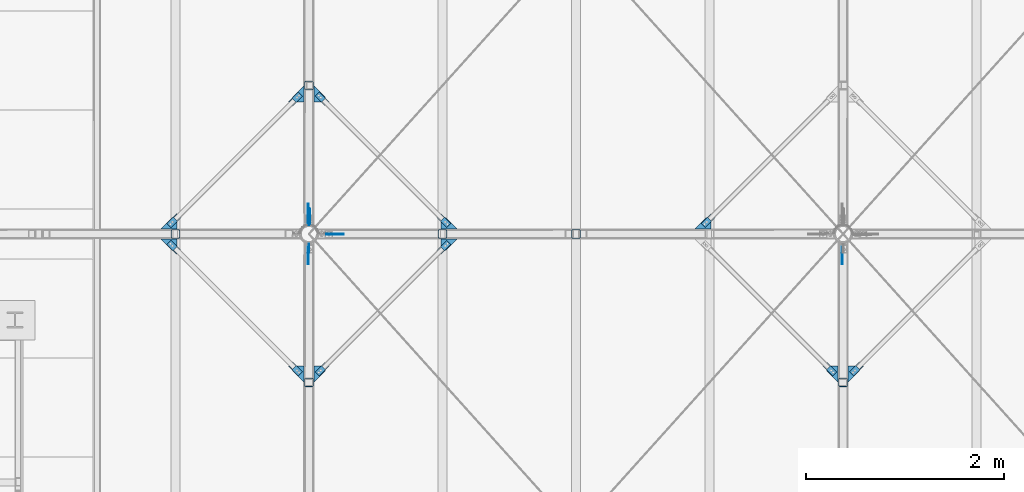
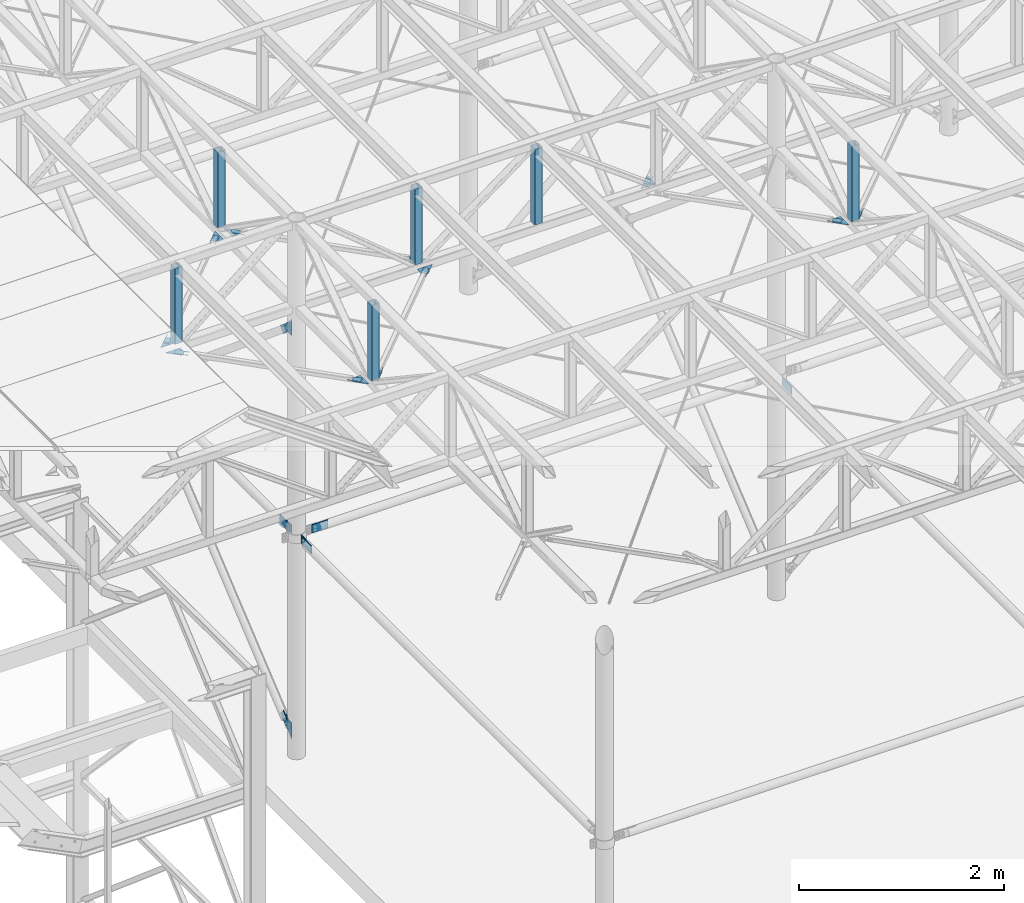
# One storey, part 75 of 132: 42 discrete accessories, 23 elements without a shape of their own.
"""IFC2X3 building model written with IfcOpenShell, lengths in millimetres."""

from ifc_helpers import new_model, si_unit, frame, origin_with_axes, origin_2d_with_axis, place, context, subcontext, project, spatial, polyline, rectangle, hollow_rectangle, outline, extrude, boolean, clip, halfspace, material, type_object, element, aggregate, save


model = new_model("IFC2X3")

# Units and contexts
model_context = context("Model", 3, precision=1e-05, world=origin_with_axes())
body_context = subcontext(model_context, "Body", "Model", "MODEL_VIEW")
ifc_project = project(units=[si_unit("LENGTHUNIT", "METRE", prefix="MILLI"), si_unit("AREAUNIT", "SQUARE_METRE"), si_unit("VOLUMEUNIT", "CUBIC_METRE"), si_unit("MASSUNIT", "GRAM", prefix="KILO"), si_unit("TIMEUNIT", "SECOND"), si_unit("PLANEANGLEUNIT", "RADIAN"), si_unit("SOLIDANGLEUNIT", "STERADIAN"), si_unit("THERMODYNAMICTEMPERATUREUNIT", "DEGREE_CELSIUS"), si_unit("LUMINOUSINTENSITYUNIT", "LUMEN")], contexts=[model_context])

# Site, building, storey
site_placement = place(None, origin_with_axes())
site = spatial("IfcSite", under=ifc_project, at=site_placement, Name="Budowa", CompositionType="ELEMENT")
building_placement = place(site_placement, origin_with_axes())
building = spatial("IfcBuilding", under=site, at=building_placement, Name="Undefined", CompositionType="ELEMENT")
storey_placement = place(building_placement, origin_with_axes())
storey = spatial("IfcBuildingStorey", under=building, at=storey_placement, Name="Undefined", CompositionType="ELEMENT", Elevation=0.0)

# Assembly, discrete accessory
assembly_1_placement = place(storey_placement, origin_with_axes())
assembly_1 = element("IfcElementAssembly", 1, at=assembly_1_placement, inside=storey, Name="Steel Assembly", AssemblyPlace="NOTDEFINED", PredefinedType="RIGID_FRAME")
ifc_material = material(Name="STEEL/S235")
discrete_accessory_type_1 = type_object("IfcDiscreteAccessoryType", Name="BLACHA")
discrete_accessory_1_placement = place(assembly_1_placement, frame((4016.99999980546, 12120.951207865, 7723.25167813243), z_axis=(0.0, 0.639165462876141, -0.769069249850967), x_axis=(0.0, 0.769069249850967, 0.639165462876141)))
discrete_accessory_1 = element("IfcDiscreteAccessory", 2, at=discrete_accessory_1_placement, type_object=discrete_accessory_type_1, material=ifc_material, Name="BLACHA", ObjectType="BL8*86", context=body_context, shape_type="CSG", body=[
    boolean("DIFFERENCE", boolean("DIFFERENCE", extrude(rectangle(XDim=8.0, YDim=86.0, at=origin_2d_with_axis()), frame((190.000000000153, -3.63797880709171e-12, 3.30513394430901e-13), z_axis=(-1.0, 0.0, 0.0), x_axis=(0.0, -1.0, 0.0)), (0.0, 0.0, 1.0), 190.0), extrude(outline(polyline([(0.0, 0.0), (20.0000000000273, -3.63797880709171e-12), (5.45696821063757e-12, 20.0000000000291), (0.0, 0.0)])), frame((0.0, 6.50000013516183, -43.0), z_axis=(0.0, -1.0, 0.0), x_axis=(1.0, 0.0, 0.0)), (0.0, 0.0, 1.0), 13.0)), extrude(outline(polyline([(0.0, 0.0), (20.0000000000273, -3.63797880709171e-12), (5.45696821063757e-12, 20.0000000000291), (0.0, 0.0)])), frame((3.63797880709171e-12, -6.49999986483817, 43.0), z_axis=(0.0, 1.0, 0.0), x_axis=(1.0, 0.0, 0.0)), (0.0, 0.0, 1.0), 13.0)),
])
aggregate(assembly_1, [discrete_accessory_1])

assembly_2_placement = place(storey_placement, origin_with_axes())
assembly_2 = element("IfcElementAssembly", 3, at=assembly_2_placement, inside=storey, Name="Steel Assembly", AssemblyPlace="NOTDEFINED", PredefinedType="RIGID_FRAME")
discrete_accessory_2_placement = place(assembly_2_placement, frame((4025.00000233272, 12088.9000000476, 7811.00054931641), z_axis=(1.0, 0.0, 0.0), x_axis=(0.0, 0.0, -1.0)))
discrete_accessory_2 = element("IfcDiscreteAccessory", 4, at=discrete_accessory_2_placement, type_object=discrete_accessory_type_1, material=ifc_material, Name="BLACHA", ObjectType="BL8*126", context=body_context, shape_type="SweptSolid", body=[
    extrude(outline(polyline([(0.0, 0.0), (188.000686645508, 0.0), (188.000686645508, 10.0), (60.999870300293, 126.000648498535), (3.18323145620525e-09, 76.0014114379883), (0.0, 0.0)])), frame((0.0, 0.0, -4.0), z_axis=(0.0, 0.0, 1.0), x_axis=(1.0, 0.0, 0.0)), (0.0, 0.0, 1.0), 8.0),
])

assembly_3_placement = place(storey_placement, origin_with_axes())
assembly_3 = element("IfcElementAssembly", 5, at=assembly_3_placement, inside=storey, Name="Steel Assembly", AssemblyPlace="NOTDEFINED", PredefinedType="RIGID_FRAME")
discrete_accessory_3_placement = place(assembly_3_placement, frame((4016.99999980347, 12120.9512117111, 12508.7489949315), z_axis=(0.0, -0.63916553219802, -0.769069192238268), x_axis=(0.0, 0.769069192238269, -0.639165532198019)))
discrete_accessory_3 = element("IfcDiscreteAccessory", 6, at=discrete_accessory_3_placement, type_object=discrete_accessory_type_1, material=ifc_material, Name="BLACHA", ObjectType="BL8*86", context=body_context, shape_type="CSG", body=[
    boolean("DIFFERENCE", boolean("DIFFERENCE", extrude(rectangle(XDim=8.0, YDim=86.0, at=origin_2d_with_axis()), frame((190.000000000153, -3.63797880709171e-12, 3.30513394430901e-13), z_axis=(-1.0, 0.0, 0.0), x_axis=(0.0, -1.0, 0.0)), (0.0, 0.0, 1.0), 190.0), extrude(outline(polyline([(0.0, 0.0), (20.0000000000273, -3.63797880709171e-12), (5.45696821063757e-12, 20.0000000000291), (0.0, 0.0)])), frame((0.0, 6.50000013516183, -43.0), z_axis=(0.0, -1.0, 0.0), x_axis=(1.0, 0.0, 0.0)), (0.0, 0.0, 1.0), 13.0)), extrude(outline(polyline([(0.0, 0.0), (20.0000000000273, -3.63797880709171e-12), (5.45696821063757e-12, 20.0000000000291), (0.0, 0.0)])), frame((3.63797880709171e-12, -6.49999986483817, 43.0), z_axis=(0.0, 1.0, 0.0), x_axis=(1.0, 0.0, 0.0)), (0.0, 0.0, 1.0), 13.0)),
])
aggregate(assembly_3, [discrete_accessory_3])

# Discrete accessory
discrete_accessory_4_placement = place(assembly_2_placement, frame((4025.0000023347, 12088.9000000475, 12608.9999313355), z_axis=(1.0, 0.0, 0.0), x_axis=(0.0, 0.0, -1.0)))
discrete_accessory_4 = element("IfcDiscreteAccessory", 7, at=discrete_accessory_4_placement, type_object=discrete_accessory_type_1, material=ifc_material, Name="BLACHA", ObjectType="BL8*126", context=body_context, shape_type="SweptSolid", body=[
    extrude(outline(polyline([(0.0, 0.0), (187.999725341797, 0.0), (187.999725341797, 76.0014114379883), (126.999855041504, 126.000648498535), (0.0, 10.0), (0.0, 0.0)])), frame((0.0, 0.0, -4.0), z_axis=(0.0, 0.0, 1.0), x_axis=(1.0, 0.0, 0.0)), (0.0, 0.0, 1.0), 8.0),
])

# Assembly, discrete accessory
assembly_4_placement = place(storey_placement, origin_with_axes())
assembly_4 = element("IfcElementAssembly", 8, at=assembly_4_placement, inside=storey, Name="Steel Assembly", AssemblyPlace="NOTDEFINED", PredefinedType="RIGID_FRAME")
discrete_accessory_5_placement = place(assembly_4_placement, frame((4017.0000027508, 12127.9079054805, 10116.0003779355), z_axis=(1.0, 0.0, 0.0), x_axis=(0.0, 1.0, 0.0)))
discrete_accessory_5 = element("IfcDiscreteAccessory", 9, at=discrete_accessory_5_placement, type_object=discrete_accessory_type_1, material=ifc_material, Name="BLACHA", ObjectType="BL8*100", context=body_context, shape_type="SweptSolid", body=[
    extrude(outline(polyline([(0.0, -50.0), (0.0, 50.0), (180.0, 50.0), (180.0, -50.0), (0.0, -50.0)])), frame((0.0, 0.0, -4.0), z_axis=(0.0, 0.0, 1.0), x_axis=(1.0, 0.0, 0.0)), (0.0, 0.0, 1.0), 8.0),
])
aggregate(assembly_4, [discrete_accessory_5])

assembly_5_placement = place(storey_placement, origin_with_axes())
assembly_5 = element("IfcElementAssembly", 10, at=assembly_5_placement, inside=storey, Name="Steel Assembly", AssemblyPlace="NOTDEFINED", PredefinedType="RIGID_FRAME")
discrete_accessory_6_placement = place(assembly_5_placement, frame((4025.0000027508, 12097.9956435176, 10066.0003796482), z_axis=(-1.0, 0.0, 0.0), x_axis=(0.0, 0.0, 1.0)))
discrete_accessory_6 = element("IfcDiscreteAccessory", 11, at=discrete_accessory_6_placement, type_object=discrete_accessory_type_1, material=ifc_material, Name="BLACHA", ObjectType="BL8*90", context=body_context, shape_type="SweptSolid", body=[
    extrude(outline(polyline([(0.0, 0.0), (100.0, 0.0), (100.0, 89.9122619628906), (0.0, 89.9122619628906), (0.0, 0.0)])), frame((0.0, 0.0, -4.0), z_axis=(0.0, 0.0, 1.0), x_axis=(1.0, 0.0, 0.0)), (0.0, 0.0, 1.0), 8.0),
])
aggregate(assembly_5, [discrete_accessory_6])

assembly_6_placement = place(storey_placement, origin_with_axes())
assembly_6 = element("IfcElementAssembly", 12, at=assembly_6_placement, inside=storey, Name="Steel Assembly", AssemblyPlace="NOTDEFINED", PredefinedType="RIGID_FRAME")
discrete_accessory_7_placement = place(assembly_6_placement, frame((4017.00000247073, 11872.0920947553, 10116.0003779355), z_axis=(1.0, 0.0, 0.0), x_axis=(0.0, -1.0, 0.0)))
discrete_accessory_7 = element("IfcDiscreteAccessory", 13, at=discrete_accessory_7_placement, type_object=discrete_accessory_type_1, material=ifc_material, Name="BLACHA", ObjectType="BL8*100", context=body_context, shape_type="SweptSolid", body=[
    extrude(outline(polyline([(180.0, 50.0), (180.0, -50.0), (0.0, -50.0), (0.0, 50.0), (180.0, 50.0)])), frame((0.0, 0.0, -4.0), z_axis=(0.0, 0.0, 1.0), x_axis=(1.0, 0.0, 0.0)), (0.0, 0.0, 1.0), 8.0),
])
aggregate(assembly_6, [discrete_accessory_7])

assembly_7_placement = place(storey_placement, origin_with_axes())
assembly_7 = element("IfcElementAssembly", 14, at=assembly_7_placement, inside=storey, Name="Steel Assembly", AssemblyPlace="NOTDEFINED", PredefinedType="RIGID_FRAME")
discrete_accessory_8_placement = place(assembly_7_placement, frame((4025.00000247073, 11902.0043567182, 10166.0003799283), z_axis=(-1.0, 0.0, 0.0), x_axis=(0.0, 0.0, -1.0)))
discrete_accessory_8 = element("IfcDiscreteAccessory", 15, at=discrete_accessory_8_placement, type_object=discrete_accessory_type_1, material=ifc_material, Name="BLACHA", ObjectType="BL8*90", context=body_context, shape_type="SweptSolid", body=[
    extrude(outline(polyline([(0.0, 0.0), (100.0, 0.0), (100.0, 89.9122619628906), (0.0, 89.9122619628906), (0.0, 0.0)])), frame((0.0, 0.0, -4.0), z_axis=(0.0, 0.0, 1.0), x_axis=(1.0, 0.0, 0.0)), (0.0, 0.0, 1.0), 8.0),
])
aggregate(assembly_7, [discrete_accessory_8])

assembly_8_placement = place(storey_placement, origin_with_axes())
assembly_8 = element("IfcElementAssembly", 16, at=assembly_8_placement, inside=storey, Name="Steel Assembly", AssemblyPlace="NOTDEFINED", PredefinedType="RIGID_FRAME")
discrete_accessory_9_placement = place(assembly_8_placement, frame((9417.00000249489, 11872.0920947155, 10116.0003779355), z_axis=(1.0, 0.0, 0.0), x_axis=(0.0, -1.0, 0.0)))
discrete_accessory_9 = element("IfcDiscreteAccessory", 17, at=discrete_accessory_9_placement, type_object=discrete_accessory_type_1, material=ifc_material, Name="BLACHA", ObjectType="BL8*100", context=body_context, shape_type="SweptSolid", body=[
    extrude(outline(polyline([(180.0, 50.0), (180.0, -50.0), (0.0, -50.0), (0.0, 50.0), (180.0, 50.0)])), frame((0.0, 0.0, -4.0), z_axis=(0.0, 0.0, 1.0), x_axis=(1.0, 0.0, 0.0)), (0.0, 0.0, 1.0), 8.0),
])
aggregate(assembly_8, [discrete_accessory_9])

assembly_9_placement = place(storey_placement, origin_with_axes())
assembly_9 = element("IfcElementAssembly", 18, at=assembly_9_placement, inside=storey, Name="Steel Assembly", AssemblyPlace="NOTDEFINED", PredefinedType="RIGID_FRAME")
discrete_accessory_10_placement = place(assembly_9_placement, frame((4198.13669406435, 11997.9999994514, 10116.0003779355), z_axis=(0.0, -1.0, 0.0), x_axis=(1.0, 0.0, 0.0)))
discrete_accessory_10 = element("IfcDiscreteAccessory", 19, at=discrete_accessory_10_placement, type_object=discrete_accessory_type_1, material=ifc_material, Name="BLACHA", ObjectType="BL8*100", context=body_context, shape_type="SweptSolid", body=[
    extrude(outline(polyline([(0.0, -50.0), (0.0, 50.0), (180.0, 50.0), (180.0, -50.0), (0.0, -50.0)])), frame((0.0, 0.0, -4.0), z_axis=(0.0, 0.0, 1.0), x_axis=(1.0, 0.0, 0.0)), (0.0, 0.0, 1.0), 8.0),
])
aggregate(assembly_9, [discrete_accessory_10])

assembly_10_placement = place(storey_placement, origin_with_axes())
assembly_10 = element("IfcElementAssembly", 20, at=assembly_10_placement, inside=storey, Name="Steel Assembly", AssemblyPlace="NOTDEFINED", PredefinedType="RIGID_FRAME")
discrete_accessory_11_placement = place(assembly_10_placement, frame((4032.99999964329, 12120.9512077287, 7723.25167860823), z_axis=(0.0, 0.639165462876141, -0.769069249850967), x_axis=(0.0, 0.769069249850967, 0.639165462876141)))
discrete_accessory_11 = element("IfcDiscreteAccessory", 21, at=discrete_accessory_11_placement, type_object=discrete_accessory_type_1, material=ifc_material, Name="BLACHA", ObjectType="BL8*69", context=body_context, shape_type="SweptSolid", body=[
    extrude(rectangle(XDim=8.0, YDim=69.0, at=origin_2d_with_axis()), frame((149.999999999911, 0.0, 0.0), z_axis=(-1.0, 0.0, 0.0), x_axis=(0.0, -1.0, 0.0)), (0.0, 0.0, 1.0), 150.0),
])
aggregate(assembly_10, [discrete_accessory_11])

# Discrete accessory
discrete_accessory_12_placement = place(assembly_2_placement, frame((4024.99999964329, 12088.9000000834, 7811.1548043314), z_axis=(1.0, 0.0, 0.0), x_axis=(0.0, 0.0, -1.0)))
discrete_accessory_12 = element("IfcDiscreteAccessory", 22, at=discrete_accessory_12_placement, type_object=discrete_accessory_type_1, material=ifc_material, Name="BLACHA", ObjectType="BL8*127", context=body_context, shape_type="SweptSolid", body=[
    extrude(outline(polyline([(0.0, 0.0), (165.901336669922, 0.0), (165.901336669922, 10.0), (60.7564697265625, 126.514472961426), (0.0, 76.0204086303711), (0.0, 0.0)])), frame((0.0, 0.0, -4.0), z_axis=(0.0, 0.0, 1.0), x_axis=(1.0, 0.0, 0.0)), (0.0, 0.0, 1.0), 8.0),
])

# Assembly, discrete accessory
assembly_11_placement = place(storey_placement, origin_with_axes())
assembly_11 = element("IfcElementAssembly", 23, at=assembly_11_placement, inside=storey, Name="Steel Assembly", AssemblyPlace="NOTDEFINED", PredefinedType="RIGID_FRAME")
discrete_accessory_13_placement = place(assembly_11_placement, frame((4032.99999991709, 12120.9512117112, 12508.7489949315), z_axis=(0.0, -0.63916553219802, -0.769069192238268), x_axis=(0.0, 0.769069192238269, -0.639165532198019)))
discrete_accessory_13 = element("IfcDiscreteAccessory", 24, at=discrete_accessory_13_placement, type_object=discrete_accessory_type_1, material=ifc_material, Name="BLACHA", ObjectType="BL8*69", context=body_context, shape_type="SweptSolid", body=[
    extrude(rectangle(XDim=8.0, YDim=69.0, at=origin_2d_with_axis()), frame((149.999999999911, 0.0, 0.0), z_axis=(-1.0, 0.0, 0.0), x_axis=(0.0, -1.0, 0.0)), (0.0, 0.0, 1.0), 150.0),
])
aggregate(assembly_11, [discrete_accessory_13])

# Discrete accessory
discrete_accessory_14_placement = place(assembly_2_placement, frame((4024.99999991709, 12088.9000000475, 12586.7472155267), z_axis=(1.0, 0.0, 0.0), x_axis=(0.0, 0.0, -1.0)))
discrete_accessory_14 = element("IfcDiscreteAccessory", 25, at=discrete_accessory_14_placement, type_object=discrete_accessory_type_1, material=ifc_material, Name="BLACHA", ObjectType="BL8*127", context=body_context, shape_type="SweptSolid", body=[
    extrude(outline(polyline([(0.0, 0.0), (165.901336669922, 0.0), (165.901351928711, 76.0204010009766), (105.144889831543, 126.514472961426), (0.0, 10.0), (0.0, 0.0)])), frame((0.0, 0.0, -4.0), z_axis=(0.0, 0.0, 1.0), x_axis=(1.0, 0.0, 0.0)), (0.0, 0.0, 1.0), 8.0),
])

aggregate(assembly_2, [discrete_accessory_2, discrete_accessory_4, discrete_accessory_12, discrete_accessory_14])

# Assembly, discrete accessory
assembly_12_placement = place(storey_placement, origin_with_axes())
assembly_12 = element("IfcElementAssembly", 26, at=assembly_12_placement, inside=storey, Name="Steel Assembly", AssemblyPlace="NOTDEFINED", PredefinedType="RIGID_FRAME")
discrete_accessory_15_placement = place(assembly_12_placement, frame((5319.3786418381, 12162.9949513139, 12830.0), z_axis=(0.0, 0.0, 1.0), x_axis=(0.707106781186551, -0.707106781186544, 0.0)))
discrete_accessory_15 = element("IfcDiscreteAccessory", 27, at=discrete_accessory_15_placement, type_object=discrete_accessory_type_1, material=ifc_material, Name="BLACHA", ObjectType="BL6*60", context=body_context, shape_type="SweptSolid", body=[
    extrude(outline(polyline([(0.0, 0.0), (139.99999999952, -6.2755134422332e-10), (139.99999999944, 59.9999999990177), (0.0, 60.0), (-8.00355337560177e-11, 54.9999999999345), (49.9999999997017, 54.9999999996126), (49.9999999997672, 4.99999999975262), (-8.73114913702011e-11, 5.00000000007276), (0.0, 0.0)])), frame((0.0, 0.0, -3.0), z_axis=(0.0, 0.0, 1.0), x_axis=(1.0, 0.0, 0.0)), (0.0, 0.0, 1.0), 6.0),
])

assembly_13_placement = place(storey_placement, origin_with_axes())
assembly_13 = element("IfcElementAssembly", 28, at=assembly_13_placement, inside=storey, Name="Steel Assembly", AssemblyPlace="NOTDEFINED", PredefinedType="RIGID_FRAME")
discrete_accessory_16_placement = place(assembly_13_placement, frame((5358.2695167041, 12050.000000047, 12824.0), z_axis=(0.0, 0.0, 1.0), x_axis=(1.0, 0.0, 0.0)))
discrete_accessory_16 = element("IfcDiscreteAccessory", 29, at=discrete_accessory_16_placement, type_object=discrete_accessory_type_1, material=ifc_material, Name="BLACHA", ObjectType="BL6*117", context=body_context, shape_type="SweptSolid", body=[
    extrude(outline(polyline([(0.0, 0.0), (166.027954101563, 0.0), (49.4974746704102, 116.530487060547), (0.0, 67.0330123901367), (0.0, 0.0)])), frame((0.0, 0.0, -3.0), z_axis=(0.0, 0.0, 1.0), x_axis=(1.0, 0.0, 0.0)), (0.0, 0.0, 1.0), 6.0),
])

# Discrete accessory
discrete_accessory_17_placement = place(assembly_12_placement, frame((4230.42135803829, 13336.8050488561, 12830.0), z_axis=(0.0, 0.0, 1.0), x_axis=(-0.707106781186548, 0.707106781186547, 0.0)))
discrete_accessory_17 = element("IfcDiscreteAccessory", 30, at=discrete_accessory_17_placement, type_object=discrete_accessory_type_1, material=ifc_material, Name="BLACHA", ObjectType="BL6*60", context=body_context, shape_type="SweptSolid", body=[
    extrude(outline(polyline([(0.0, 0.0), (139.99999999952, -6.2755134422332e-10), (139.99999999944, 59.9999999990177), (0.0, 60.0), (-8.00355337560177e-11, 54.9999999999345), (49.9999999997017, 54.9999999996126), (49.9999999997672, 4.99999999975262), (-8.73114913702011e-11, 5.00000000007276), (0.0, 0.0)])), frame((0.0, 0.0, -3.0), z_axis=(0.0, 0.0, 1.0), x_axis=(1.0, 0.0, 0.0)), (0.0, 0.0, 1.0), 6.0),
])

aggregate(assembly_12, [discrete_accessory_15, discrete_accessory_17])

# Assembly, discrete accessory
assembly_14_placement = place(storey_placement, origin_with_axes())
assembly_14 = element("IfcElementAssembly", 31, at=assembly_14_placement, inside=storey, Name="Steel Assembly", AssemblyPlace="NOTDEFINED", PredefinedType="RIGID_FRAME")
discrete_accessory_18_placement = place(assembly_14_placement, frame((4074.99999991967, 13499.2974747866, 12824.0), z_axis=(0.0, 0.0, 1.0), x_axis=(0.0, -1.0, 0.0)))
discrete_accessory_18 = element("IfcDiscreteAccessory", 32, at=discrete_accessory_18_placement, type_object=discrete_accessory_type_1, material=ifc_material, Name="BLACHA", ObjectType="BL6*117", context=body_context, shape_type="SweptSolid", body=[
    extrude(outline(polyline([(0.0, 0.0), (166.027954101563, 0.0), (166.027954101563, 67.0330123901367), (116.530487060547, 116.530487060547), (0.0, 0.0)])), frame((0.0, 0.0, -3.0), z_axis=(0.0, 0.0, 1.0), x_axis=(1.0, 0.0, 0.0)), (0.0, 0.0, 1.0), 6.0),
])

assembly_15_placement = place(storey_placement, origin_with_axes())
assembly_15 = element("IfcElementAssembly", 33, at=assembly_15_placement, inside=storey, Name="Steel Assembly", AssemblyPlace="NOTDEFINED", PredefinedType="RIGID_FRAME")
discrete_accessory_19_placement = place(assembly_15_placement, frame((5362.00504867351, 11794.5786419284, 12830.0), z_axis=(0.0, 0.0, 1.0), x_axis=(0.707106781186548, 0.707106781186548, 0.0)))
discrete_accessory_19 = element("IfcDiscreteAccessory", 34, at=discrete_accessory_19_placement, type_object=discrete_accessory_type_1, material=ifc_material, Name="BLACHA", ObjectType="BL6*60", context=body_context, shape_type="SweptSolid", body=[
    extrude(outline(polyline([(0.0, 0.0), (139.99999999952, -6.2755134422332e-10), (139.99999999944, 59.9999999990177), (0.0, 60.0), (-8.00355337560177e-11, 54.9999999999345), (49.9999999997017, 54.9999999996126), (49.9999999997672, 4.99999999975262), (-8.73114913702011e-11, 5.00000000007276), (0.0, 0.0)])), frame((0.0, 0.0, -3.0), z_axis=(0.0, 0.0, 1.0), x_axis=(1.0, 0.0, 0.0)), (0.0, 0.0, 1.0), 6.0),
])

# Discrete accessory
discrete_accessory_20_placement = place(assembly_13_placement, frame((5524.49747460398, 11950.000000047, 12824.0), z_axis=(0.0, 0.0, 1.0), x_axis=(-1.0, 0.0, 0.0)))
discrete_accessory_20 = element("IfcDiscreteAccessory", 35, at=discrete_accessory_20_placement, type_object=discrete_accessory_type_1, material=ifc_material, Name="BLACHA", ObjectType="BL6*117", context=body_context, shape_type="SweptSolid", body=[
    extrude(outline(polyline([(0.0, 0.0), (166.027954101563, 0.0), (166.027954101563, 67.0330123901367), (116.530487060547, 116.530487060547), (0.0, 0.0)])), frame((0.0, 0.0, -3.0), z_axis=(0.0, 0.0, 1.0), x_axis=(1.0, 0.0, 0.0)), (0.0, 0.0, 1.0), 6.0),
])

discrete_accessory_21_placement = place(assembly_15_placement, frame((4187.9949511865, 10705.4213581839, 12830.0), z_axis=(0.0, 0.0, 1.0), x_axis=(-0.70710678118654, -0.707106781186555, 0.0)))
discrete_accessory_21 = element("IfcDiscreteAccessory", 36, at=discrete_accessory_21_placement, type_object=discrete_accessory_type_1, material=ifc_material, Name="BLACHA", ObjectType="BL6*60", context=body_context, shape_type="SweptSolid", body=[
    extrude(outline(polyline([(0.0, 0.0), (139.99999999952, -6.2755134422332e-10), (139.99999999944, 59.9999999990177), (0.0, 60.0), (-8.00355337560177e-11, 54.9999999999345), (49.9999999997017, 54.9999999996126), (49.9999999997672, 4.99999999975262), (-8.73114913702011e-11, 5.00000000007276), (0.0, 0.0)])), frame((0.0, 0.0, -3.0), z_axis=(0.0, 0.0, 1.0), x_axis=(1.0, 0.0, 0.0)), (0.0, 0.0, 1.0), 6.0),
])

aggregate(assembly_15, [discrete_accessory_19, discrete_accessory_21])

# Assembly, discrete accessory
assembly_16_placement = place(storey_placement, origin_with_axes())
assembly_16 = element("IfcElementAssembly", 37, at=assembly_16_placement, inside=storey, Name="Steel Assembly", AssemblyPlace="NOTDEFINED", PredefinedType="RIGID_FRAME")
discrete_accessory_22_placement = place(assembly_16_placement, frame((4074.99999991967, 10666.5304833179, 12824.0), z_axis=(0.0, 0.0, 1.0), x_axis=(0.0, -1.0, 0.0)))
discrete_accessory_22 = element("IfcDiscreteAccessory", 38, at=discrete_accessory_22_placement, type_object=discrete_accessory_type_1, material=ifc_material, Name="BLACHA", ObjectType="BL6*117", context=body_context, shape_type="SweptSolid", body=[
    extrude(outline(polyline([(0.0, 0.0), (166.027954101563, 0.0), (49.4974746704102, 116.530487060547), (0.0, 67.0330123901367), (0.0, 0.0)])), frame((0.0, 0.0, -3.0), z_axis=(0.0, 0.0, 1.0), x_axis=(1.0, 0.0, 0.0)), (0.0, 0.0, 1.0), 6.0),
])

assembly_17_placement = place(storey_placement, origin_with_axes())
assembly_17 = element("IfcElementAssembly", 39, at=assembly_17_placement, inside=storey, Name="Steel Assembly", AssemblyPlace="NOTDEFINED", PredefinedType="RIGID_FRAME")
discrete_accessory_23_placement = place(assembly_17_placement, frame((2688.19495111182, 12205.4213581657, 12830.0), z_axis=(0.0, 0.0, 1.0), x_axis=(-0.70710678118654, -0.707106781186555, 0.0)))
discrete_accessory_23 = element("IfcDiscreteAccessory", 40, at=discrete_accessory_23_placement, type_object=discrete_accessory_type_1, material=ifc_material, Name="BLACHA", ObjectType="BL6*60", context=body_context, shape_type="SweptSolid", body=[
    extrude(outline(polyline([(0.0, 0.0), (139.99999999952, -6.2755134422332e-10), (139.99999999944, 59.9999999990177), (0.0, 60.0), (-8.00355337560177e-11, 54.9999999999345), (49.9999999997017, 54.9999999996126), (49.9999999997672, 4.99999999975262), (-8.73114913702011e-11, 5.00000000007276), (0.0, 0.0)])), frame((0.0, 0.0, -3.0), z_axis=(0.0, 0.0, 1.0), x_axis=(1.0, 0.0, 0.0)), (0.0, 0.0, 1.0), 6.0),
])

assembly_18_placement = place(storey_placement, origin_with_axes())
assembly_18 = element("IfcElementAssembly", 41, at=assembly_18_placement, inside=storey, Name="Steel Assembly", AssemblyPlace="NOTDEFINED", PredefinedType="RIGID_FRAME")
discrete_accessory_24_placement = place(assembly_18_placement, frame((2525.70252518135, 12050.000000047, 12824.0), z_axis=(0.0, 0.0, 1.0), x_axis=(1.0, 0.0, 0.0)))
discrete_accessory_24 = element("IfcDiscreteAccessory", 42, at=discrete_accessory_24_placement, type_object=discrete_accessory_type_1, material=ifc_material, Name="BLACHA", ObjectType="BL6*117", context=body_context, shape_type="SweptSolid", body=[
    extrude(outline(polyline([(0.0, 0.0), (166.027954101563, 0.0), (166.027954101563, 67.0330123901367), (116.530487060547, 116.530487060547), (0.0, 0.0)])), frame((0.0, 0.0, -3.0), z_axis=(0.0, 0.0, 1.0), x_axis=(1.0, 0.0, 0.0)), (0.0, 0.0, 1.0), 6.0),
])

# Discrete accessory
discrete_accessory_25_placement = place(assembly_17_placement, frame((3862.00504865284, 13294.3786419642, 12830.0), z_axis=(0.0, 0.0, 1.0), x_axis=(0.707106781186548, 0.707106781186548, 0.0)))
discrete_accessory_25 = element("IfcDiscreteAccessory", 43, at=discrete_accessory_25_placement, type_object=discrete_accessory_type_1, material=ifc_material, Name="BLACHA", ObjectType="BL6*60", context=body_context, shape_type="SweptSolid", body=[
    extrude(outline(polyline([(0.0, 0.0), (139.99999999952, -6.2755134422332e-10), (139.99999999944, 59.9999999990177), (0.0, 60.0), (-8.00355337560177e-11, 54.9999999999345), (49.9999999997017, 54.9999999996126), (49.9999999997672, 4.99999999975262), (-8.73114913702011e-11, 5.00000000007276), (0.0, 0.0)])), frame((0.0, 0.0, -3.0), z_axis=(0.0, 0.0, 1.0), x_axis=(1.0, 0.0, 0.0)), (0.0, 0.0, 1.0), 6.0),
])

aggregate(assembly_17, [discrete_accessory_23, discrete_accessory_25])

discrete_accessory_26_placement = place(assembly_14_placement, frame((3974.99999991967, 13333.2695168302, 12824.0), z_axis=(0.0, 0.0, 1.0), x_axis=(0.0, 1.0, 0.0)))
discrete_accessory_26 = element("IfcDiscreteAccessory", 44, at=discrete_accessory_26_placement, type_object=discrete_accessory_type_1, material=ifc_material, Name="BLACHA", ObjectType="BL6*117", context=body_context, shape_type="SweptSolid", body=[
    extrude(outline(polyline([(0.0, 0.0), (166.027954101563, 0.0), (49.4974746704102, 116.530487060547), (0.0, 67.0330123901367), (0.0, 0.0)])), frame((0.0, 0.0, -3.0), z_axis=(0.0, 0.0, 1.0), x_axis=(1.0, 0.0, 0.0)), (0.0, 0.0, 1.0), 6.0),
])

# Assembly, discrete accessory
assembly_19_placement = place(storey_placement, origin_with_axes())
assembly_19 = element("IfcElementAssembly", 45, at=assembly_19_placement, inside=storey, Name="Steel Assembly", AssemblyPlace="NOTDEFINED", PredefinedType="RIGID_FRAME")
discrete_accessory_27_placement = place(assembly_19_placement, frame((2730.42135805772, 11837.0050487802, 12830.0), z_axis=(0.0, 0.0, 1.0), x_axis=(-0.707106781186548, 0.707106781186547, 0.0)))
discrete_accessory_27 = element("IfcDiscreteAccessory", 46, at=discrete_accessory_27_placement, type_object=discrete_accessory_type_1, material=ifc_material, Name="BLACHA", ObjectType="BL6*60", context=body_context, shape_type="SweptSolid", body=[
    extrude(outline(polyline([(0.0, 0.0), (139.99999999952, -6.2755134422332e-10), (139.99999999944, 59.9999999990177), (0.0, 60.0), (-8.00355337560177e-11, 54.9999999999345), (49.9999999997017, 54.9999999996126), (49.9999999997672, 4.99999999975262), (-8.73114913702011e-11, 5.00000000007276), (0.0, 0.0)])), frame((0.0, 0.0, -3.0), z_axis=(0.0, 0.0, 1.0), x_axis=(1.0, 0.0, 0.0)), (0.0, 0.0, 1.0), 6.0),
])

# Discrete accessory
discrete_accessory_28_placement = place(assembly_18_placement, frame((2691.53048319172, 11950.000000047, 12824.0), z_axis=(0.0, 0.0, 1.0), x_axis=(-1.0, 0.0, 0.0)))
discrete_accessory_28 = element("IfcDiscreteAccessory", 47, at=discrete_accessory_28_placement, type_object=discrete_accessory_type_1, material=ifc_material, Name="BLACHA", ObjectType="BL6*117", context=body_context, shape_type="SweptSolid", body=[
    extrude(outline(polyline([(0.0, 0.0), (166.027954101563, 0.0), (49.4974746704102, 116.530487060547), (0.0, 67.0330123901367), (0.0, 0.0)])), frame((0.0, 0.0, -3.0), z_axis=(0.0, 0.0, 1.0), x_axis=(1.0, 0.0, 0.0)), (0.0, 0.0, 1.0), 6.0),
])

discrete_accessory_29_placement = place(assembly_19_placement, frame((3819.57864180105, 10662.9949512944, 12830.0), z_axis=(0.0, 0.0, 1.0), x_axis=(0.707106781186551, -0.707106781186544, 0.0)))
discrete_accessory_29 = element("IfcDiscreteAccessory", 48, at=discrete_accessory_29_placement, type_object=discrete_accessory_type_1, material=ifc_material, Name="BLACHA", ObjectType="BL6*60", context=body_context, shape_type="SweptSolid", body=[
    extrude(outline(polyline([(0.0, 0.0), (139.99999999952, -6.2755134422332e-10), (139.99999999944, 59.9999999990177), (0.0, 60.0), (-8.00355337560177e-11, 54.9999999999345), (49.9999999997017, 54.9999999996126), (49.9999999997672, 4.99999999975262), (-8.73114913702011e-11, 5.00000000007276), (0.0, 0.0)])), frame((0.0, 0.0, -3.0), z_axis=(0.0, 0.0, 1.0), x_axis=(1.0, 0.0, 0.0)), (0.0, 0.0, 1.0), 6.0),
])

aggregate(assembly_19, [discrete_accessory_27, discrete_accessory_29])

discrete_accessory_30_placement = place(assembly_16_placement, frame((3974.99999991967, 10500.502525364, 12824.0), z_axis=(0.0, 0.0, 1.0), x_axis=(0.0, 1.0, 0.0)))
discrete_accessory_30 = element("IfcDiscreteAccessory", 49, at=discrete_accessory_30_placement, type_object=discrete_accessory_type_1, material=ifc_material, Name="BLACHA", ObjectType="BL6*117", context=body_context, shape_type="SweptSolid", body=[
    extrude(outline(polyline([(0.0, 0.0), (166.027954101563, 0.0), (166.027954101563, 67.0330123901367), (116.530487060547, 116.530487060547), (0.0, 0.0)])), frame((0.0, 0.0, -3.0), z_axis=(0.0, 0.0, 1.0), x_axis=(1.0, 0.0, 0.0)), (0.0, 0.0, 1.0), 6.0),
])

# Assembly, discrete accessory
assembly_20_placement = place(storey_placement, origin_with_axes())
assembly_20 = element("IfcElementAssembly", 50, at=assembly_20_placement, inside=storey, Name="Steel Assembly", AssemblyPlace="NOTDEFINED", PredefinedType="RIGID_FRAME")
discrete_accessory_31_placement = place(assembly_20_placement, frame((9587.99495121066, 10705.4213581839, 12830.0), z_axis=(0.0, 0.0, 1.0), x_axis=(-0.70710678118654, -0.707106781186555, 0.0)))
discrete_accessory_31 = element("IfcDiscreteAccessory", 51, at=discrete_accessory_31_placement, type_object=discrete_accessory_type_1, material=ifc_material, Name="BLACHA", ObjectType="BL6*60", context=body_context, shape_type="SweptSolid", body=[
    extrude(outline(polyline([(0.0, 0.0), (139.99999999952, -6.2755134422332e-10), (139.99999999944, 59.9999999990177), (0.0, 60.0), (-8.00355337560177e-11, 54.9999999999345), (49.9999999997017, 54.9999999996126), (49.9999999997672, 4.99999999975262), (-8.73114913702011e-11, 5.00000000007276), (0.0, 0.0)])), frame((0.0, 0.0, -3.0), z_axis=(0.0, 0.0, 1.0), x_axis=(1.0, 0.0, 0.0)), (0.0, 0.0, 1.0), 6.0),
])
aggregate(assembly_20, [discrete_accessory_31])

assembly_21_placement = place(storey_placement, origin_with_axes())
assembly_21 = element("IfcElementAssembly", 52, at=assembly_21_placement, inside=storey, Name="Steel Assembly", AssemblyPlace="NOTDEFINED", PredefinedType="RIGID_FRAME")
discrete_accessory_32_placement = place(assembly_21_placement, frame((9474.99999994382, 10666.5304833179, 12824.0), z_axis=(0.0, 0.0, 1.0), x_axis=(0.0, -1.0, 0.0)))
discrete_accessory_32 = element("IfcDiscreteAccessory", 53, at=discrete_accessory_32_placement, type_object=discrete_accessory_type_1, material=ifc_material, Name="BLACHA", ObjectType="BL6*117", context=body_context, shape_type="SweptSolid", body=[
    extrude(outline(polyline([(0.0, 0.0), (166.027954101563, 0.0), (49.4974746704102, 116.530487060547), (0.0, 67.0330123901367), (0.0, 0.0)])), frame((0.0, 0.0, -3.0), z_axis=(0.0, 0.0, 1.0), x_axis=(1.0, 0.0, 0.0)), (0.0, 0.0, 1.0), 6.0),
])

assembly_22_placement = place(storey_placement, origin_with_axes())
assembly_22 = element("IfcElementAssembly", 54, at=assembly_22_placement, inside=storey, Name="Steel Assembly", AssemblyPlace="NOTDEFINED", PredefinedType="RIGID_FRAME")
discrete_accessory_33_placement = place(assembly_22_placement, frame((8088.19495113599, 12205.4213581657, 12830.0), z_axis=(0.0, 0.0, 1.0), x_axis=(-0.70710678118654, -0.707106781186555, 0.0)))
discrete_accessory_33 = element("IfcDiscreteAccessory", 55, at=discrete_accessory_33_placement, type_object=discrete_accessory_type_1, material=ifc_material, Name="BLACHA", ObjectType="BL6*60", context=body_context, shape_type="SweptSolid", body=[
    extrude(outline(polyline([(0.0, 0.0), (139.99999999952, -6.2755134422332e-10), (139.99999999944, 59.9999999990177), (0.0, 60.0), (-8.00355337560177e-11, 54.9999999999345), (49.9999999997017, 54.9999999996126), (49.9999999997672, 4.99999999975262), (-8.73114913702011e-11, 5.00000000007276), (0.0, 0.0)])), frame((0.0, 0.0, -3.0), z_axis=(0.0, 0.0, 1.0), x_axis=(1.0, 0.0, 0.0)), (0.0, 0.0, 1.0), 6.0),
])
aggregate(assembly_22, [discrete_accessory_33])

# Discrete accessory
discrete_accessory_34_placement = place(assembly_13_placement, frame((7925.70252520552, 12050.000000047, 12824.0), z_axis=(0.0, 0.0, 1.0), x_axis=(1.0, 0.0, 0.0)))
discrete_accessory_34 = element("IfcDiscreteAccessory", 56, at=discrete_accessory_34_placement, type_object=discrete_accessory_type_1, material=ifc_material, Name="BLACHA", ObjectType="BL6*117", context=body_context, shape_type="SweptSolid", body=[
    extrude(outline(polyline([(0.0, 0.0), (166.027954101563, 0.0), (166.027954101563, 67.0330123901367), (116.530487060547, 116.530487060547), (0.0, 0.0)])), frame((0.0, 0.0, -3.0), z_axis=(0.0, 0.0, 1.0), x_axis=(1.0, 0.0, 0.0)), (0.0, 0.0, 1.0), 6.0),
])

# Assembly, discrete accessory
assembly_23_placement = place(storey_placement, origin_with_axes())
assembly_23 = element("IfcElementAssembly", 57, at=assembly_23_placement, inside=storey, Name="Steel Assembly", AssemblyPlace="NOTDEFINED", PredefinedType="RIGID_FRAME")
discrete_accessory_35_placement = place(assembly_23_placement, frame((9219.5786418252, 10662.9949512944, 12830.0), z_axis=(0.0, 0.0, 1.0), x_axis=(0.707106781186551, -0.707106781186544, 0.0)))
discrete_accessory_35 = element("IfcDiscreteAccessory", 58, at=discrete_accessory_35_placement, type_object=discrete_accessory_type_1, material=ifc_material, Name="BLACHA", ObjectType="BL6*60", context=body_context, shape_type="SweptSolid", body=[
    extrude(outline(polyline([(0.0, 0.0), (139.99999999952, -6.2755134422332e-10), (139.99999999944, 59.9999999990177), (0.0, 60.0), (-8.00355337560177e-11, 54.9999999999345), (49.9999999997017, 54.9999999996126), (49.9999999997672, 4.99999999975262), (-8.73114913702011e-11, 5.00000000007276), (0.0, 0.0)])), frame((0.0, 0.0, -3.0), z_axis=(0.0, 0.0, 1.0), x_axis=(1.0, 0.0, 0.0)), (0.0, 0.0, 1.0), 6.0),
])
aggregate(assembly_23, [discrete_accessory_35])

# Discrete accessory
discrete_accessory_36_placement = place(assembly_21_placement, frame((9374.99999994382, 10500.502525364, 12824.0), z_axis=(0.0, 0.0, 1.0), x_axis=(0.0, 1.0, 0.0)))
discrete_accessory_36 = element("IfcDiscreteAccessory", 59, at=discrete_accessory_36_placement, type_object=discrete_accessory_type_1, material=ifc_material, Name="BLACHA", ObjectType="BL6*117", context=body_context, shape_type="SweptSolid", body=[
    extrude(outline(polyline([(0.0, 0.0), (166.027954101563, 0.0), (166.027954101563, 67.0330123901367), (116.530487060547, 116.530487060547), (0.0, 0.0)])), frame((0.0, 0.0, -3.0), z_axis=(0.0, 0.0, 1.0), x_axis=(1.0, 0.0, 0.0)), (0.0, 0.0, 1.0), 6.0),
])

discrete_accessory_type_2 = type_object("IfcDiscreteAccessoryType", Name="BEAM")
discrete_accessory_37_placement = place(assembly_18_placement, frame((2676.09999996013, 12000.000000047, 13780.0), z_axis=(1.0, 0.0, 0.0), x_axis=(0.0, 0.0, -1.0)))
discrete_accessory_37 = element("IfcDiscreteAccessory", 60, at=discrete_accessory_37_placement, type_object=discrete_accessory_type_2, material=ifc_material, Name="BEAM", ObjectType="SHS90*6", context=body_context, shape_type="Clipping", body=[
    clip(clip(extrude(hollow_rectangle(XDim=90.0, YDim=90.0, WallThickness=6.0, InnerFilletRadius=6.0, OuterFilletRadius=12.0, at=origin_2d_with_axis()), frame((900.0, 0.0, 0.0), z_axis=(-1.0, 0.0, 0.0), x_axis=(0.0, -1.0, 0.0)), (0.0, 0.0, 1.0), 900.0), halfspace(frame((900.0, 0.0, 1000.0), z_axis=(-1.0, 0.0, 0.0), x_axis=(0.0, -1.0, 0.0)), True)), halfspace(frame((0.0, 0.0, 1000.0), z_axis=(1.0, 0.0, 0.0), x_axis=(0.0, 1.0, 0.0)), True)),
])

aggregate(assembly_18, [discrete_accessory_24, discrete_accessory_28, discrete_accessory_37])

discrete_accessory_38_placement = place(assembly_14_placement, frame((4024.99999991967, 13500.000000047, 13780.0), z_axis=(1.0, 0.0, 0.0), x_axis=(0.0, 0.0, -1.0)))
discrete_accessory_38 = element("IfcDiscreteAccessory", 61, at=discrete_accessory_38_placement, type_object=discrete_accessory_type_2, material=ifc_material, Name="BEAM", ObjectType="SHS90*6", context=body_context, shape_type="Clipping", body=[
    clip(clip(extrude(hollow_rectangle(XDim=90.0, YDim=90.0, WallThickness=6.0, InnerFilletRadius=6.0, OuterFilletRadius=12.0, at=origin_2d_with_axis()), frame((900.0, 0.0, 0.0), z_axis=(-1.0, 0.0, 0.0), x_axis=(0.0, -1.0, 0.0)), (0.0, 0.0, 1.0), 900.0), halfspace(frame((900.0, 0.0, 1000.0), z_axis=(-1.0, 0.0, 0.0), x_axis=(0.0, -1.0, 0.0)), True)), halfspace(frame((0.0, 0.0, 1000.0), z_axis=(1.0, 0.0, 0.0), x_axis=(0.0, 1.0, 0.0)), True)),
])

aggregate(assembly_14, [discrete_accessory_18, discrete_accessory_26, discrete_accessory_38])

discrete_accessory_39_placement = place(assembly_16_placement, frame((4024.99999991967, 10500.0000000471, 13780.0), z_axis=(1.0, 0.0, 0.0), x_axis=(0.0, 0.0, -1.0)))
discrete_accessory_39 = element("IfcDiscreteAccessory", 62, at=discrete_accessory_39_placement, type_object=discrete_accessory_type_2, material=ifc_material, Name="BEAM", ObjectType="SHS90*6", context=body_context, shape_type="Clipping", body=[
    clip(clip(extrude(hollow_rectangle(XDim=90.0, YDim=90.0, WallThickness=6.0, InnerFilletRadius=6.0, OuterFilletRadius=12.0, at=origin_2d_with_axis()), frame((900.0, 0.0, 0.0), z_axis=(-1.0, 0.0, 0.0), x_axis=(0.0, -1.0, 0.0)), (0.0, 0.0, 1.0), 900.0), halfspace(frame((900.0, 0.0, 1000.0), z_axis=(-1.0, 0.0, 0.0), x_axis=(0.0, -1.0, 0.0)), True)), halfspace(frame((0.0, 0.0, 1000.0), z_axis=(1.0, 0.0, 0.0), x_axis=(0.0, 1.0, 0.0)), True)),
])

aggregate(assembly_16, [discrete_accessory_22, discrete_accessory_30, discrete_accessory_39])

discrete_accessory_40_placement = place(assembly_21_placement, frame((9424.99999994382, 10500.0000000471, 13780.0), z_axis=(1.0, 0.0, 0.0), x_axis=(0.0, 0.0, -1.0)))
discrete_accessory_40 = element("IfcDiscreteAccessory", 63, at=discrete_accessory_40_placement, type_object=discrete_accessory_type_2, material=ifc_material, Name="BEAM", ObjectType="SHS90*6", context=body_context, shape_type="Clipping", body=[
    clip(clip(extrude(hollow_rectangle(XDim=90.0, YDim=90.0, WallThickness=6.0, InnerFilletRadius=6.0, OuterFilletRadius=12.0, at=origin_2d_with_axis()), frame((900.0, 0.0, 0.0), z_axis=(-1.0, 0.0, 0.0), x_axis=(0.0, -1.0, 0.0)), (0.0, 0.0, 1.0), 900.0), halfspace(frame((900.0, 0.0, 1000.0), z_axis=(-1.0, 0.0, 0.0), x_axis=(0.0, -1.0, 0.0)), True)), halfspace(frame((0.0, 0.0, 1000.0), z_axis=(1.0, 0.0, 0.0), x_axis=(0.0, 1.0, 0.0)), True)),
])

aggregate(assembly_21, [discrete_accessory_32, discrete_accessory_36, discrete_accessory_40])

discrete_accessory_41_placement = place(assembly_13_placement, frame((5374.99999993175, 12000.000000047, 13780.0), z_axis=(0.0, -1.0, 0.0), x_axis=(0.0, 0.0, -1.0)))
discrete_accessory_41 = element("IfcDiscreteAccessory", 64, at=discrete_accessory_41_placement, type_object=discrete_accessory_type_2, material=ifc_material, Name="BEAM", ObjectType="SHS90*6", context=body_context, shape_type="Clipping", body=[
    clip(clip(extrude(hollow_rectangle(XDim=90.0, YDim=90.0, WallThickness=6.0, InnerFilletRadius=6.0, OuterFilletRadius=12.0, at=origin_2d_with_axis()), frame((900.0, 0.0, 0.0), z_axis=(-1.0, 0.0, 0.0), x_axis=(0.0, -1.0, 0.0)), (0.0, 0.0, 1.0), 900.0), halfspace(frame((900.0, 0.0, 1000.0), z_axis=(-1.0, 0.0, 0.0), x_axis=(0.0, -1.0, 0.0)), True)), halfspace(frame((0.0, 0.0, 1000.0), z_axis=(1.0, 0.0, 0.0), x_axis=(0.0, 1.0, 0.0)), True)),
])

discrete_accessory_42_placement = place(assembly_13_placement, frame((6724.99999993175, 12000.000000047, 13780.0), z_axis=(0.0, -1.0, 0.0), x_axis=(0.0, 0.0, -1.0)))
discrete_accessory_42 = element("IfcDiscreteAccessory", 65, at=discrete_accessory_42_placement, type_object=discrete_accessory_type_2, material=ifc_material, Name="BEAM", ObjectType="SHS90*6", context=body_context, shape_type="Clipping", body=[
    clip(clip(extrude(hollow_rectangle(XDim=90.0, YDim=90.0, WallThickness=6.0, InnerFilletRadius=6.0, OuterFilletRadius=12.0, at=origin_2d_with_axis()), frame((900.0, 0.0, 0.0), z_axis=(-1.0, 0.0, 0.0), x_axis=(0.0, -1.0, 0.0)), (0.0, 0.0, 1.0), 900.0), halfspace(frame((900.0, 0.0, 1000.0), z_axis=(-1.0, 0.0, 0.0), x_axis=(0.0, -1.0, 0.0)), True)), halfspace(frame((0.0, 0.0, 1000.0), z_axis=(1.0, 0.0, 0.0), x_axis=(0.0, 1.0, 0.0)), True)),
])

aggregate(assembly_13, [discrete_accessory_16, discrete_accessory_20, discrete_accessory_34, discrete_accessory_41, discrete_accessory_42])

save(model, "model.ifc")
